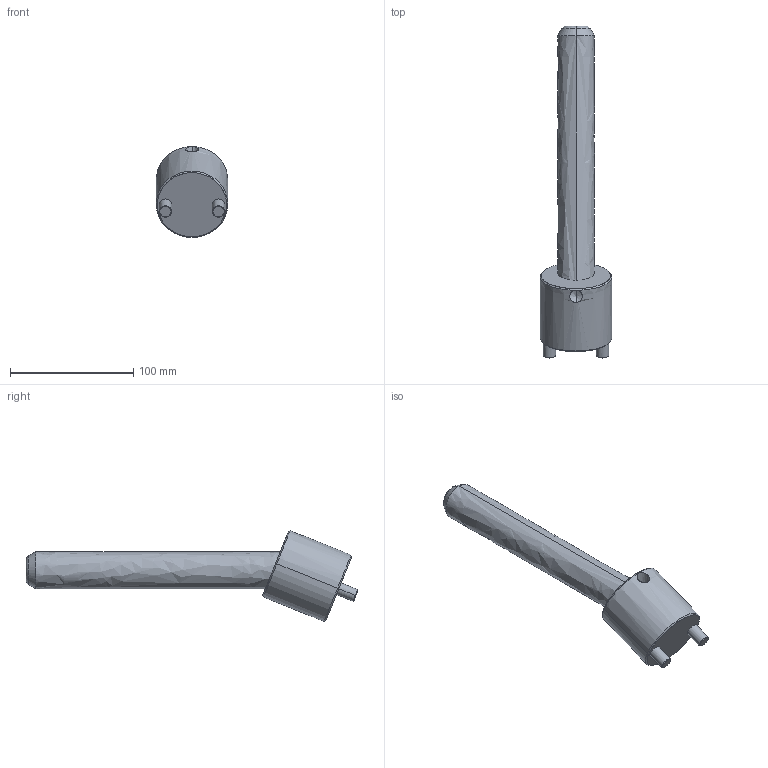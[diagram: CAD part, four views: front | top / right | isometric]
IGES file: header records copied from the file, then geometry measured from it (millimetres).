
Start section: START RECORD GO HERE.
Global section: file name: CI2230200.igs; native system: DASSAULT SYSTEMES CATIA V5 R20 - www.3ds.com; preprocessor: CATIA Version 5 Release 20 ; author: r.borello; organization: CFTORINO; date: 20190620.153450; units: millimetre
Bounding box: 58 x 268.84 x 73.63 mm (x, y, z)
Surface area: 44861 mm2 (no closed solid volume)
Topology: 0 solids, 0 shells, 39 faces, 168 edges, 166 vertices
Faces by surface type: revolution 32, plane 7
